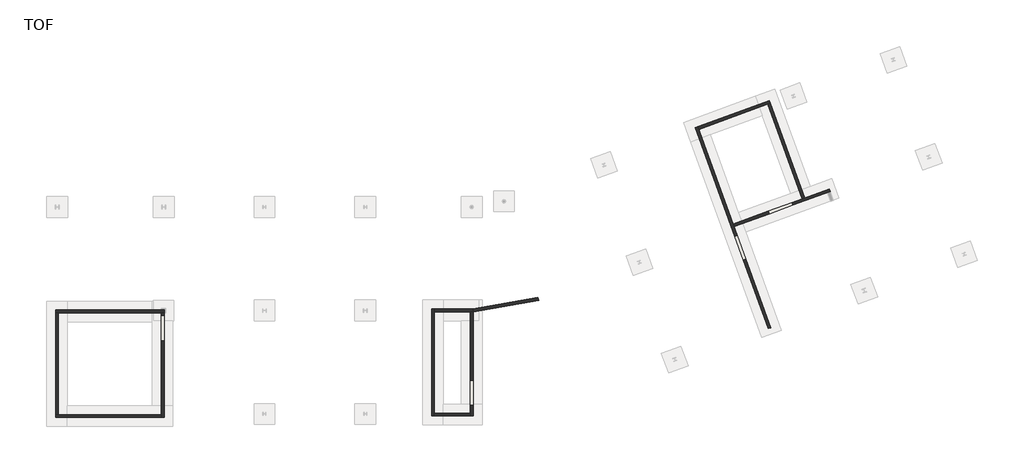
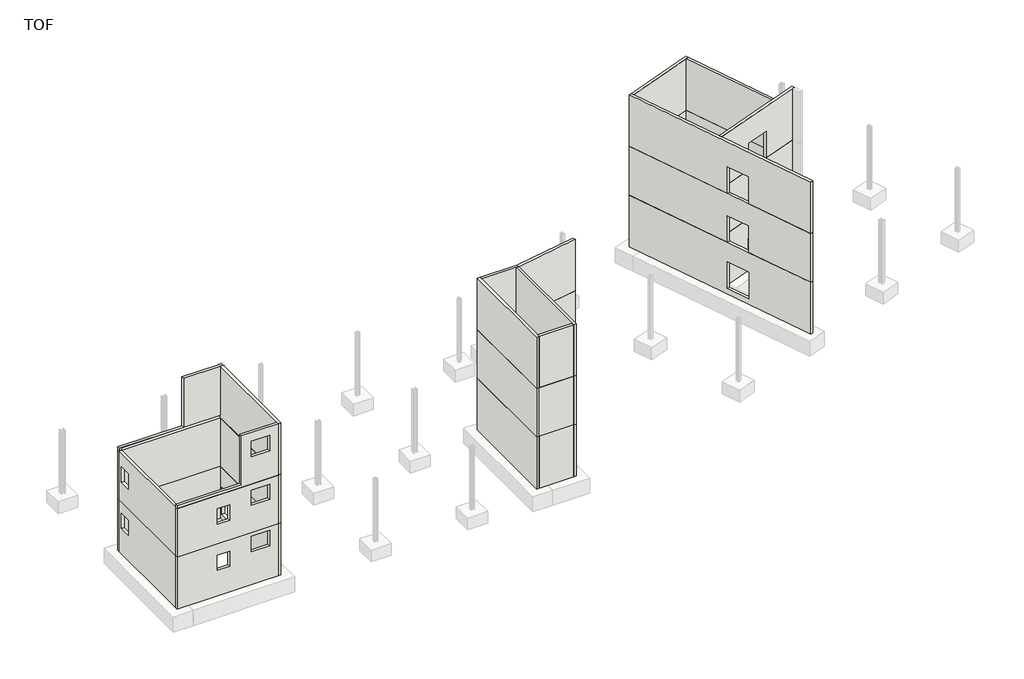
# One storey, part 1 of 2: 13 walls.
"""IFC4 building model written with IfcOpenShell, lengths in millimetres."""

import ifcopenshell
import ifcopenshell.guid

model = None  # the IFC model being written
_history = None  # IfcOwnerHistory: only IFC2X3 demands one
_inside = {}  # id of a spatial element -> (the spatial element, [elements in it])
_under = {}  # id of a project, library or spatial element -> (it, [spatial elements below it])
_declared = {}  # id of a project -> (the project, [libraries it declares])
_typed = {}  # id of a type object -> (the type object, [elements of that type])
_made_of = {}  # id of a material, layer set ... -> (it, [elements and type objects made of it])


def new_model(schema):
    """Start an empty IFC model of exactly this schema.

    Asked for "IFC4X3", IfcOpenShell would pick the latest addendum, in which some entities
    have other attributes; the version numbers below select the first issue.
    IFC2X3 requires an IfcOwnerHistory on every rooted entity: one is made here for all.
    """
    global model, _history
    if schema == "IFC4X3":
        model = ifcopenshell.file(schema_version=(4, 3, 0, 0))
    else:
        model = ifcopenshell.file(schema=schema)
    _inside.clear()
    _under.clear()
    _declared.clear()
    _typed.clear()
    _made_of.clear()
    _history = None
    if model.schema == "IFC2X3":
        org = make("IfcOrganization", Name="unknown")
        user = make(
            "IfcPersonAndOrganization",
            ThePerson=make("IfcPerson", FamilyName="unknown"),
            TheOrganization=org,
        )
        app = make(
            "IfcApplication",
            ApplicationDeveloper=org,
            Version="unknown",
            ApplicationFullName="unknown",
            ApplicationIdentifier="unknown",
        )
        _history = make(
            "IfcOwnerHistory",
            OwningUser=user,
            OwningApplication=app,
            ChangeAction="ADDED",
            CreationDate=0,
        )
    return model


def make(cls, **values):
    """One entity of the class cls with the attributes given. An attribute that is None is left unset."""
    return model.create_entity(
        cls, **{name: value for name, value in values.items() if value is not None}
    )


def rooted(cls, **values):
    """An entity with a GlobalId (a new one), such as an element, a storey or a relation."""
    return make(cls, GlobalId=ifcopenshell.guid.new(), OwnerHistory=_history, **values)


def si_unit(unit_type, name, prefix=None):
    """IfcSIUnit, for example si_unit("LENGTHUNIT", "METRE", prefix="MILLI")."""
    return make("IfcSIUnit", UnitType=unit_type, Prefix=prefix, Name=name)


def assignment(units):
    """IfcUnitAssignment: the units of a project."""
    return None if units is None else make("IfcUnitAssignment", Units=units)


def point(xyz):
    """IfcCartesianPoint."""
    return None if xyz is None else make("IfcCartesianPoint", Coordinates=xyz)


def direction(xyz):
    """IfcDirection."""
    return None if xyz is None else make("IfcDirection", DirectionRatios=xyz)


def frame(location, z_axis=None, x_axis=None):
    """IfcAxis2Placement3D, a coordinate frame: its origin and axes. An axis left out is left unset."""
    return make(
        "IfcAxis2Placement3D",
        Location=point(location),
        Axis=direction(z_axis),
        RefDirection=direction(x_axis),
    )


def origin():
    """The frame at (0, 0, 0) with its axes left unset."""
    return frame((0.0, 0.0, 0.0))


def place(relative_to, where):
    """IfcLocalPlacement: puts the frame where relative to a parent placement (None: the world)."""
    return make(
        "IfcLocalPlacement", PlacementRelTo=relative_to, RelativePlacement=where
    )


def context(
    kind, dimensions, precision=None, world=None, true_north=None, identifier=None
):
    """IfcGeometricRepresentationContext, for example the 3D "Model" context."""
    return make(
        "IfcGeometricRepresentationContext",
        ContextIdentifier=identifier,
        ContextType=kind,
        CoordinateSpaceDimension=dimensions,
        Precision=precision,
        WorldCoordinateSystem=world,
        TrueNorth=true_north,
    )


def project(units=None, contexts=None):
    """IfcProject with its units and contexts."""
    return rooted(
        "IfcProject",
        Name="project",
        RepresentationContexts=contexts,
        UnitsInContext=assignment(units),
    )


def spatial(cls, under=None, at=None, **own):
    """A site, building, storey or space (cls), placed at a placement, below another one or the project."""
    s = rooted(cls, ObjectPlacement=at, **own)
    if under is not None:
        _under.setdefault(under.id(), (under, []))[1].append(s)
    return s


def polyline(points):
    """IfcPolyline through the points."""
    return make("IfcPolyline", Points=[point(p) for p in points])


def outline(outer, holes=None, kind="AREA"):
    """IfcArbitraryClosedProfileDef: a profile drawn as a closed curve; with holes, ...WithVoids."""
    if holes is None:
        return make("IfcArbitraryClosedProfileDef", ProfileType=kind, OuterCurve=outer)
    return make(
        "IfcArbitraryProfileDefWithVoids",
        ProfileType=kind,
        OuterCurve=outer,
        InnerCurves=holes,
    )


def extrude(swept, where, along, depth):
    """IfcExtrudedAreaSolid: the profile swept, set in the frame where, extruded along a direction by depth."""
    return make(
        "IfcExtrudedAreaSolid",
        SweptArea=swept,
        Position=where,
        ExtrudedDirection=direction(along),
        Depth=depth,
    )


def faces_of(points, faces, orient=None, outer=None):
    """IfcFace entities. A face is a list of loops; a loop is a list of indices into points, from 0.

    orient and outer hold one flag for each loop. By default every Orientation is true, the
    first loop of a face is its IfcFaceOuterBound and the others are IfcFaceBound.
    """
    made = []
    for i, loops in enumerate(faces):
        bounds = []
        for j, loop in enumerate(loops):
            is_outer = j == 0 if outer is None else outer[i][j]
            bounds.append(
                make(
                    "IfcFaceOuterBound" if is_outer else "IfcFaceBound",
                    Bound=make("IfcPolyLoop", Polygon=[points[k] for k in loop]),
                    Orientation=True if orient is None else orient[i][j],
                )
            )
        made.append(make("IfcFace", Bounds=bounds))
    return made


def faceted_brep(points, faces, orient=None, outer=None, voids=None):
    """IfcFacetedBrep: a solid bounded by flat faces; with voids (closed shells), ...WithVoids."""
    shared = [point(p) for p in points]
    hull = make("IfcClosedShell", CfsFaces=faces_of(shared, faces, orient, outer))
    if voids is None:
        return make("IfcFacetedBrep", Outer=hull)
    return make(
        "IfcFacetedBrepWithVoids",
        Outer=hull,
        Voids=[
            make(cls, CfsFaces=faces_of(shared, fs, o, b)) for cls, fs, o, b in voids
        ],
    )


def shape(context_of_items, identifier, shape_type, items):
    """IfcShapeRepresentation: the items that make up one representation, for example the "Body"."""
    return make(
        "IfcShapeRepresentation",
        ContextOfItems=context_of_items,
        RepresentationIdentifier=identifier,
        RepresentationType=shape_type,
        Items=items,
    )


def made_of(thing, what):
    """Note that an element or type object is made of a material, layer set ...; save() writes the relation."""
    if what is not None:
        _made_of.setdefault(what.id(), (what, []))[1].append(thing)
    return thing


def element(
    cls,
    number,
    at=None,
    inside=None,
    cuts=None,
    type_object=None,
    material=None,
    context=None,
    identifier="Body",
    shape_type=None,
    held_by="IfcProductDefinitionShape",
    body=None,
    shapes=None,
    **own,
):
    """One element of the class cls, such as IfcWall. Its Tag is "e" and its number.

    at: its placement. inside: the storey or other place that contains it. cuts: it is an
    opening in that element (IfcRelVoidsElement). A single representation is given by context,
    identifier, shape_type and body (its items); several are given by shapes. held_by: the class
    of the entity that holds the representations. save() writes the other relations.
    """
    e = rooted(cls, Tag="e%d" % number, ObjectPlacement=at, **own)
    if body is not None:
        shapes = [shape(context, identifier, shape_type, body)]
    if shapes is not None:
        e.Representation = make(held_by, Representations=shapes)
    if inside is not None:
        _inside.setdefault(inside.id(), (inside, []))[1].append(e)
    if cuts is not None:
        rooted(
            "IfcRelVoidsElement", RelatingBuildingElement=cuts, RelatedOpeningElement=e
        )
    if type_object is not None:
        _typed.setdefault(type_object.id(), (type_object, []))[1].append(e)
    return made_of(e, material)


def aggregate(whole, parts):
    """IfcRelAggregates: a whole, such as a stair, and the parts it consists of."""
    return rooted("IfcRelAggregates", RelatingObject=whole, RelatedObjects=parts)


def save(model, path):
    """Write the relations noted so far, then the file.

    IfcRelAggregates (storeys below a building ...), IfcRelContainedInSpatialStructure (elements
    in a storey), IfcRelDefinesByType, IfcRelAssociatesMaterial and IfcRelDeclares: one each for
    every whole, place, type object, material and project.
    """
    for whole, parts in _under.values():
        aggregate(whole, parts)
    for where, things in _inside.values():
        rooted(
            "IfcRelContainedInSpatialStructure",
            RelatedElements=things,
            RelatingStructure=where,
        )
    for kind, things in _typed.values():
        rooted("IfcRelDefinesByType", RelatedObjects=things, RelatingType=kind)
    for what, things in _made_of.values():
        rooted("IfcRelAssociatesMaterial", RelatedObjects=things, RelatingMaterial=what)
    for by, libraries in _declared.values():
        rooted("IfcRelDeclares", RelatingContext=by, RelatedDefinitions=libraries)
    model.write(path)


model = new_model("IFC4")

# Units and contexts
model_context = context("Model", 3, world=origin())
ifc_project = project(units=[si_unit("LENGTHUNIT", "METRE", prefix="MILLI")], contexts=[model_context])

# Site, building, storey
site = spatial("IfcSite", under=ifc_project)
building = spatial("IfcBuilding", under=site)
storey = spatial("IfcBuildingStorey", under=building, Name="TOF", Elevation=-450.0)

# Walls
placement = place(None, origin())
element("IfcWall", 1, ObjectType="RC WALL 8\"", at=placement, inside=storey, context=model_context, shape_type="SolidModel", body=[
    faceted_brep([(27662.2000028, 7963.2000004, 7595.0), (27662.2000028, 220.0000006, 7595.0), (27462.2000028, 220.0000006, 7595.0), (27462.2000028, 7963.2000004, 7595.0), (27662.2000028, 7963.2000004, 11700.0), (27662.2000028, 7763.2000004, 11700.0), (27662.2000028, 420.0000006, 11700.0), (27662.2000028, 220.0000006, 11700.0), (27462.2000028, 7963.2000004, 11700.0), (27462.2000028, 220.0000006, 11700.0)], [[[0, 1, 2, 3]], [[0, 4, 5, 6, 7, 1]], [[4, 0, 3, 8]], [[5, 4, 8, 9, 7, 6]], [[1, 7, 9, 2]], [[2, 9, 8, 3]]]),
    faceted_brep([(27662.2000028, 220.0000006, 3695.0), (27662.2000028, 7963.2000004, 3695.0), (27462.2000028, 7963.2000004, 3695.0), (27462.2000028, 220.0000006, 3695.0), (27662.2000028, 220.0000006, -450.0), (27662.2000028, 420.0000006, -450.0), (27662.2000028, 7763.2000004, -450.0), (27662.2000028, 7963.2000004, -450.0), (27462.2000028, 220.0000006, -450.0), (27462.2000028, 7963.2000004, -450.0)], [[[0, 1, 2, 3]], [[4, 5, 6, 7, 1, 0]], [[5, 4, 8, 9, 7, 6]], [[1, 7, 9, 2]], [[4, 0, 3, 8]], [[8, 3, 2, 9]]]),
    extrude(outline(polyline([(27662.2000028, 7963.2000004), (27662.2000028, 220.0000006), (27462.2000028, 220.0000006), (27462.2000028, 7963.2000004), (27662.2000028, 7963.2000004)])), frame((0.0, 0.0, 3695.0), z_axis=(0.0, 0.0, 1.0), x_axis=(1.0, 0.0, 0.0)), (0.0, 0.0, 1.0), 3900.0),
])
element("IfcWall", 2, ObjectType="RC WALL 8\"", at=placement, inside=storey, context=model_context, shape_type="SolidModel", body=[
    faceted_brep([(30462.2000027, 7763.2000004, 7595.0), (27662.2000028, 7763.2000004, 7595.0), (27662.2000028, 7963.2000004, 7595.0), (30444.70227, 7963.2000004, 7595.0), (30462.2000027, 7763.2000004, 11700.0), (30262.2000024, 7763.2000004, 11700.0), (27662.2000028, 7763.2000004, 11700.0), (30444.70227, 7963.2000004, 11700.0), (27662.2000028, 7963.2000004, 11700.0)], [[[0, 1, 2, 3]], [[0, 4, 5, 6, 1]], [[4, 0, 3, 7]], [[5, 4, 7, 8, 6]], [[1, 6, 8, 2]], [[2, 8, 7, 3]]]),
    faceted_brep([(27662.2000028, 7763.2000004, 3695.0), (30462.2000027, 7763.2000004, 3695.0), (30444.70227, 7963.2000004, 3695.0), (27662.2000028, 7963.2000004, 3695.0), (27662.2000028, 7763.2000004, -450.0), (30262.2000024, 7763.2000004, -450.0), (30462.2000027, 7763.2000004, -450.0), (27662.2000028, 7963.2000004, -450.0), (30444.70227, 7963.2000004, -450.0)], [[[0, 1, 2, 3]], [[4, 5, 6, 1, 0]], [[5, 4, 7, 8, 6]], [[1, 6, 8, 2]], [[4, 0, 3, 7]], [[7, 3, 2, 8]]]),
    extrude(outline(polyline([(30462.2000027, 7763.2000004), (27662.2000028, 7763.2000004), (27662.2000028, 7963.2000004), (30444.70227, 7963.2000004), (30462.2000027, 7763.2000004)])), frame((0.0, 0.0, 3695.0), z_axis=(0.0, 0.0, 1.0), x_axis=(1.0, 0.0, 0.0)), (0.0, 0.0, 1.0), 3900.0),
])
element("IfcWall", 3, ObjectType="RC WALL 8\"", at=placement, inside=storey, context=model_context, shape_type="SweptSolid", body=[
    extrude(outline(polyline([(35205.0982701, 8599.5009317), (30462.2000027, 7763.2000004), (30444.70227, 7963.2000004), (35153.1367317, 8793.4240329), (35205.0982701, 8599.5009317)])), frame((0.0, 0.0, 7595.0), z_axis=(0.0, 0.0, 1.0), x_axis=(1.0, 0.0, 0.0)), (0.0, 0.0, 1.0), 4105.0),
    extrude(outline(polyline([(35205.0982701, 8599.5009317), (30462.2000027, 7763.2000004), (30444.70227, 7963.2000004), (35153.1367317, 8793.4240329), (35205.0982701, 8599.5009317)])), frame((0.0, 0.0, -450.0), z_axis=(0.0, 0.0, 1.0), x_axis=(1.0, 0.0, 0.0)), (0.0, 0.0, 1.0), 4145.0),
    extrude(outline(polyline([(35205.0982701, 8599.5009317), (30462.2000027, 7763.2000004), (30444.70227, 7963.2000004), (35153.1367317, 8793.4240329), (35205.0982701, 8599.5009317)])), frame((0.0, 0.0, 3695.0), z_axis=(0.0, 0.0, 1.0), x_axis=(1.0, 0.0, 0.0)), (0.0, 0.0, 1.0), 3900.0),
])
element("IfcWall", 4, ObjectType="RC WALL 8\"", at=placement, inside=storey, context=model_context, shape_type="Brep", body=[
    faceted_brep([(30262.2000024, 220.0000006, 7595.0), (30262.2000024, 986.1234345, 7595.0), (30462.2000024, 986.1234345, 7595.0), (30462.2000024, 220.0000006, 7595.0), (30262.2000024, 2814.9234345, 7595.0), (30262.2000024, 7763.2000004, 7595.0), (30462.2000024, 7763.2000004, 7595.0), (30462.2000024, 2814.9234345, 7595.0), (30262.2000024, 2814.9234345, 9728.6), (30262.2000024, 986.1234345, 9728.6), (30262.2000024, 220.0000006, 11700.0), (30262.2000024, 420.0000006, 11700.0), (30262.2000024, 7763.2000004, 11700.0), (30462.2000024, 2814.9234345, 9728.6), (30462.2000024, 986.1234345, 9728.6), (30462.2000024, 220.0000006, 11700.0), (30462.2000024, 7763.2000004, 11700.0)], [[[0, 1, 2, 3]], [[4, 5, 6, 7]], [[8, 9, 1, 0, 10, 11, 12, 5, 4]], [[9, 8, 13, 14]], [[1, 9, 14, 2]], [[8, 4, 7, 13]], [[10, 0, 3, 15]], [[11, 10, 15, 16, 12]], [[5, 12, 16, 6]], [[13, 7, 6, 16, 15, 3, 2, 14]]]),
    faceted_brep([(30262.2000024, 7763.2000004, 3695.0), (30262.2000024, 2814.9234345, 3695.0), (30262.2000024, 986.1234345, 3695.0), (30262.2000024, 220.0000006, 3695.0), (30462.2000024, 220.0000006, 3695.0), (30462.2000024, 986.1234345, 3695.0), (30462.2000024, 2814.9234345, 3695.0), (30462.2000024, 7763.2000004, 3695.0), (30262.2000024, 7763.2000004, -450.0), (30262.2000024, 420.0000006, -450.0), (30262.2000024, 220.0000006, -450.0), (30262.2000024, 2814.9234345, 2133.6), (30262.2000024, 986.1234345, 2133.6), (30262.2000024, 986.1234345, 0.0), (30262.2000024, 2814.9234345, 0.0), (30462.2000024, 2814.9234345, 2133.6), (30462.2000024, 986.1234345, 2133.6), (30462.2000024, 986.1234345, 0.0), (30462.2000024, 2814.9234345, 0.0), (30462.2000024, 7763.2000004, -450.0), (30462.2000024, 220.0000006, -450.0)], [[[0, 1, 2, 3, 4, 5, 6, 7]], [[8, 9, 10, 3, 2, 1, 0], [11, 12, 13, 14]], [[12, 11, 15, 16]], [[13, 12, 16, 17]], [[14, 13, 17, 18]], [[11, 14, 18, 15]], [[9, 8, 19, 20, 10]], [[3, 10, 20, 4]], [[8, 0, 7, 19]], [[19, 7, 6, 5, 4, 20], [15, 18, 17, 16]]]),
    faceted_brep([(30262.2000024, 7763.2000004, 7595.0), (30262.2000024, 2814.9234345, 7595.0), (30262.2000024, 986.1234345, 7595.0), (30262.2000024, 220.0000006, 7595.0), (30462.2000024, 220.0000006, 7595.0), (30462.2000024, 986.1234345, 7595.0), (30462.2000024, 2814.9234345, 7595.0), (30462.2000024, 7763.2000004, 7595.0), (30262.2000024, 220.0000006, 3695.0), (30262.2000024, 986.1234345, 3695.0), (30462.2000024, 986.1234345, 3695.0), (30462.2000024, 220.0000006, 3695.0), (30262.2000024, 2814.9234345, 3695.0), (30262.2000024, 7763.2000004, 3695.0), (30462.2000024, 7763.2000004, 3695.0), (30462.2000024, 2814.9234345, 3695.0), (30262.2000024, 2814.9234345, 5828.6), (30262.2000024, 986.1234345, 5828.6), (30462.2000024, 2814.9234345, 5828.6), (30462.2000024, 986.1234345, 5828.6)], [[[0, 1, 2, 3, 4, 5, 6, 7]], [[8, 9, 10, 11]], [[12, 13, 14, 15]], [[16, 17, 9, 8, 3, 2, 1, 0, 13, 12]], [[13, 0, 7, 14]], [[18, 15, 14, 7, 6, 5, 4, 11, 10, 19]], [[16, 12, 15, 18]], [[17, 16, 18, 19]], [[9, 17, 19, 10]], [[3, 8, 11, 4]]]),
])
element("IfcWall", 5, ObjectType="RC WALL 8\"", at=placement, inside=storey, context=model_context, shape_type="SweptSolid", body=[
    extrude(outline(polyline([(27662.2000028, 420.0000006), (30262.2000024, 420.0000006), (30262.2000024, 220.0000006), (27662.2000028, 220.0000006), (27662.2000028, 420.0000006)])), frame((0.0, 0.0, 7595.0), z_axis=(0.0, 0.0, 1.0), x_axis=(1.0, 0.0, 0.0)), (0.0, 0.0, 1.0), 4105.0),
    extrude(outline(polyline([(27662.2000028, 420.0000006), (30262.2000024, 420.0000006), (30262.2000024, 220.0000006), (27662.2000028, 220.0000006), (27662.2000028, 420.0000006)])), frame((0.0, 0.0, -450.0), z_axis=(0.0, 0.0, 1.0), x_axis=(1.0, 0.0, 0.0)), (0.0, 0.0, 1.0), 4145.0),
    extrude(outline(polyline([(27662.2000028, 420.0000006), (30262.2000024, 420.0000006), (30262.2000024, 220.0000006), (27662.2000028, 220.0000006), (27662.2000028, 420.0000006)])), frame((0.0, 0.0, 3695.0), z_axis=(0.0, 0.0, 1.0), x_axis=(1.0, 0.0, 0.0)), (0.0, 0.0, 1.0), 3900.0),
])
element("IfcWall", 6, ObjectType="RC WALL 8\"", at=placement, inside=storey, context=model_context, shape_type="Brep", body=[
    faceted_brep([(408.0000012, 7688.2000003, 7595.0), (233.0000012, 7688.2000003, 7595.0), (233.0000013, 7888.2000003, 7595.0), (408.0000013, 7888.2000003, 7595.0), (408.0000012, 7688.2000003, 7795.0), (8087.2000024, 7688.2000005, 7795.0), (8087.2000024, 7688.2000005, 11700.0), (7887.2000024, 7688.2000005, 11700.0), (5097.2000022, 7688.2000004, 11700.0), (5097.2000022, 7688.2000004, 7800.0), (233.0000012, 7688.2000003, 7800.0), (408.0000013, 7888.2000003, 7795.0), (7887.2000024, 7888.2000005, 7795.0), (8087.2000024, 7888.2000005, 7795.0), (8087.2000024, 7888.2000005, 11700.0), (7887.2000024, 7888.2000005, 11700.0), (5097.2000022, 7888.2000004, 11700.0), (5097.2000022, 7888.2000004, 7800.0), (233.0000013, 7888.2000003, 7800.0)], [[[0, 1, 2, 3]], [[0, 4, 5, 6, 7, 8, 9, 10, 1]], [[4, 0, 3, 11]], [[5, 4, 11, 12, 13]], [[6, 5, 13, 14]], [[7, 6, 14, 15, 16, 8]], [[9, 8, 16, 17]], [[10, 9, 17, 18]], [[1, 10, 18, 2]], [[2, 18, 17, 16, 15, 14, 13, 12, 11, 3]]]),
    faceted_brep([(233.0000012, 7688.2000003, 3695.0), (8087.2000024, 7688.2000005, 3695.0), (8087.2000024, 7888.2000005, 3695.0), (233.0000013, 7888.2000003, 3695.0), (233.0000012, 7688.2000003, -450.0), (433.0000012, 7688.2000003, -450.0), (7887.2000024, 7688.2000005, -450.0), (8087.2000024, 7688.2000005, -450.0), (233.0000013, 7888.2000003, -450.0), (7887.2000024, 7888.2000005, -450.0), (8087.2000024, 7888.2000005, -450.0)], [[[0, 1, 2, 3]], [[4, 5, 6, 7, 1, 0]], [[5, 4, 8, 9, 10, 7, 6]], [[1, 7, 10, 2]], [[4, 0, 3, 8]], [[10, 9, 8, 3, 2]]]),
    faceted_brep([(233.0000012, 7688.2000003, 7595.0), (408.0000012, 7688.2000003, 7595.0), (433.0000012, 7688.2000003, 7595.0), (8087.2000024, 7688.2000005, 7595.0), (8087.2000024, 7888.2000005, 7595.0), (7887.2000024, 7888.2000005, 7595.0), (408.0000013, 7888.2000003, 7595.0), (233.0000013, 7888.2000003, 7595.0), (8087.2000024, 7688.2000005, 3695.0), (233.0000012, 7688.2000003, 3695.0), (233.0000013, 7888.2000003, 3695.0), (8087.2000024, 7888.2000005, 3695.0)], [[[0, 1, 2, 3, 4, 5, 6, 7]], [[8, 9, 10, 11]], [[8, 3, 2, 1, 0, 9]], [[9, 0, 7, 10]], [[10, 7, 6, 5, 4, 11]], [[3, 8, 11, 4]]]),
])
element("IfcWall", 7, ObjectType="RC WALL 8\"", at=placement, inside=storey, context=model_context, shape_type="SolidModel", body=[
    faceted_brep([(7887.2000024, 113.0000007, 7595.0), (7887.2000024, 7688.2000005, 7595.0), (8087.2000024, 7688.2000005, 7595.0), (8087.2000024, 113.0000007, 7595.0), (7887.2000024, 113.0000007, 11700.0), (7887.2000024, 313.0000007, 11700.0), (7887.2000024, 7688.2000005, 11700.0), (8087.2000024, 113.0000007, 11700.0), (8087.2000024, 7688.2000005, 11700.0), (8087.2000024, 7688.2000005, 7795.0)], [[[0, 1, 2, 3]], [[0, 4, 5, 6, 1]], [[4, 0, 3, 7]], [[5, 4, 7, 8, 6]], [[1, 6, 8, 9, 2]], [[2, 9, 8, 7, 3]]]),
    faceted_brep([(7887.2000024, 7688.2000005, 3695.0), (7887.2000024, 113.0000007, 3695.0), (8087.2000024, 113.0000007, 3695.0), (8087.2000024, 7688.2000005, 3695.0), (7887.2000024, 7688.2000005, -450.0), (7887.2000024, 313.0000007, -450.0), (7887.2000024, 113.0000007, -450.0), (7887.2000024, 5668.8000005, 2133.6), (7887.2000024, 5668.8000005, 0.0), (7887.2000024, 7497.6000005, 0.0), (7887.2000024, 7497.6000005, 2133.6), (8087.2000024, 5668.8000005, 2133.6), (8087.2000024, 5668.8000005, 0.0), (8087.2000024, 7497.6000005, 0.0), (8087.2000024, 7497.6000005, 2133.6), (8087.2000024, 7688.2000005, -450.0), (8087.2000024, 113.0000007, -450.0)], [[[0, 1, 2, 3]], [[4, 5, 6, 1, 0], [7, 8, 9, 10]], [[8, 7, 11, 12]], [[9, 8, 12, 13]], [[10, 9, 13, 14]], [[7, 10, 14, 11]], [[5, 4, 15, 16, 6]], [[1, 6, 16, 2]], [[4, 0, 3, 15]], [[15, 3, 2, 16], [11, 14, 13, 12]]]),
    extrude(outline(polyline([(7887.2000024, 113.0000007), (7887.2000024, 7688.2000005), (8087.2000024, 7688.2000005), (8087.2000024, 113.0000007), (7887.2000024, 113.0000007)])), frame((0.0, 0.0, 3695.0), z_axis=(0.0, 0.0, 1.0), x_axis=(1.0, 0.0, 0.0)), (0.0, 0.0, 1.0), 3900.0),
])
element("IfcWall", 8, ObjectType="RC WALL 8\"", at=placement, inside=storey, context=model_context, shape_type="SolidModel", body=[
    extrude(outline(polyline([(7595.0, 7887.2000024), (11700.0, 7887.2000024), (11700.0, 5097.2000022), (7800.0, 5097.2000022), (7800.0, 233.0), (7595.0, 233.0), (7595.0, 7887.2000024)]), holes=[polyline([(11004.2, 5848.0166692), (11004.2, 7219.6166692), (9785.0, 7219.6166692), (9785.0, 5848.0166692), (11004.2, 5848.0166692)])]), frame((0.0, 113.0000007, 0.0), z_axis=(0.0, 1.0, 0.0), x_axis=(0.0, 0.0, 1.0)), (0.0, 0.0, 1.0), 200.0),
    faceted_brep([(7887.2000024, 313.0000007, 3695.0), (233.0000001, 313.0000007, 3695.0), (233.0, 113.0000007, 3695.0), (7887.2000024, 113.0000007, 3695.0), (7887.2000024, 313.0000007, -450.0), (433.0000001, 313.0000007, -450.0), (233.0000001, 313.0000007, -450.0), (4199.4000022, 313.0000007, 2809.2), (3285.0000022, 313.0000007, 2809.2), (3285.0000022, 313.0000007, 1590.0), (4199.4000022, 313.0000007, 1590.0), (7219.6166692, 313.0000007, 3409.2), (5848.0166692, 313.0000007, 3409.2), (5848.0166692, 313.0000007, 2190.0), (7219.6166692, 313.0000007, 2190.0), (7887.2000024, 113.0000007, -450.0), (233.0, 113.0000007, -450.0), (4199.4000022, 113.0000007, 2809.2), (3285.0000022, 113.0000007, 2809.2), (3285.0000022, 113.0000007, 1590.0), (4199.4000022, 113.0000007, 1590.0), (7219.6166692, 113.0000007, 3409.2), (5848.0166692, 113.0000007, 3409.2), (5848.0166692, 113.0000007, 2190.0), (7219.6166692, 113.0000007, 2190.0)], [[[0, 1, 2, 3]], [[4, 5, 6, 1, 0], [7, 8, 9, 10], [11, 12, 13, 14]], [[5, 4, 15, 16, 6]], [[1, 6, 16, 2]], [[4, 0, 3, 15]], [[8, 7, 17, 18]], [[9, 8, 18, 19]], [[10, 9, 19, 20]], [[7, 10, 20, 17]], [[12, 11, 21, 22]], [[13, 12, 22, 23]], [[14, 13, 23, 24]], [[11, 14, 24, 21]], [[15, 3, 2, 16], [17, 20, 19, 18], [21, 24, 23, 22]]]),
    extrude(outline(polyline([(3695.0, 7887.2000024), (7595.0, 7887.2000024), (7595.0, 233.0), (3695.0, 233.0), (3695.0, 7887.2000024)]), holes=[polyline([(7104.2, 7219.6166692), (5885.0, 7219.6166692), (5885.0, 5848.0166692), (7104.2, 5848.0166692), (7104.2, 7219.6166692)]), polyline([(6504.2, 4199.4000022), (5285.0, 4199.4000022), (5285.0, 3285.0000022), (6504.2, 3285.0000022), (6504.2, 4199.4000022)])]), frame((0.0, 113.0000007, 0.0), z_axis=(0.0, 1.0, 0.0), x_axis=(0.0, 0.0, 1.0)), (0.0, 0.0, 1.0), 200.0),
])
element("IfcWall", 9, ObjectType="RC WALL 8\"", at=placement, inside=storey, context=model_context, shape_type="SolidModel", body=[
    faceted_brep([(433.0000001, 313.0000007, 7595.0), (433.0000012, 7688.2000003, 7595.0), (408.0000012, 7688.2000003, 7595.0), (233.0000012, 7688.2000003, 7595.0), (233.0000001, 313.0000007, 7595.0), (433.0000012, 7688.2000003, 3695.0), (433.0000001, 313.0000007, 3695.0), (233.0000001, 313.0000007, 3695.0), (233.0000012, 7688.2000003, 3695.0), (433.000001, 6476.0000003, 6504.2), (433.0000012, 7390.4000003, 6504.2), (433.0000012, 7390.4000003, 5285.0), (433.000001, 6476.0000003, 5285.0), (233.000001, 6476.0000003, 6504.2), (233.000001, 6476.0000003, 5285.0), (233.0000012, 7390.4000003, 5285.0), (233.0000012, 7390.4000003, 6504.2)], [[[0, 1, 2, 3, 4]], [[5, 6, 7, 8]], [[5, 1, 0, 6], [9, 10, 11, 12]], [[6, 0, 4, 7]], [[7, 4, 3, 8], [13, 14, 15, 16]], [[1, 5, 8, 3, 2]], [[10, 9, 13, 16]], [[11, 10, 16, 15]], [[12, 11, 15, 14]], [[9, 12, 14, 13]]]),
    extrude(outline(polyline([(-1274.7140232, 0.0), (-1274.7140232, -4145.0), (-8649.9140228, -4145.0), (-8649.9140228, 0.0), (-1274.7140232, 0.0)]), holes=[polyline([(-7437.7140228, -3259.2), (-7437.7140228, -2040.0), (-8352.1140228, -2040.0), (-8352.1140228, -3259.2), (-7437.7140228, -3259.2)])]), frame((232.9999998, -961.7140225, -450.0), z_axis=(1.0, -1.600288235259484e-10, 0.0), x_axis=(-1.600288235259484e-10, -1.0, 0.0)), (0.0, 0.0, 1.0), 200.0),
])
element("IfcWall", 10, ObjectType="RC WALL 8\"", at=placement, inside=storey, context=model_context, shape_type="Brep", body=[
    faceted_brep([(50211.2306799, 11593.0325344, 7595.0), (52022.5009548, 6616.6083532, 7595.0), (51834.5624306, 6548.2043246, 7595.0), (50023.2921558, 11524.6285057, 7595.0), (46724.472127, 21172.8229263, 7595.0), (49585.7442418, 13311.5423993, 7595.0), (49397.8057177, 13243.1383707, 7595.0), (46536.5336029, 21104.4188977, 7595.0), (49585.7442418, 13311.5423993, 9728.6), (46724.472127, 21172.8229263, 11700.0), (46792.8761557, 20984.8844022, 11700.0), (49288.8365555, 14127.2895633, 11700.0), (49357.2405842, 13939.3510391, 11700.0), (52022.5009548, 6616.6083532, 11700.0), (50211.2306799, 11593.0325344, 9728.6), (49397.8057177, 13243.1383707, 9728.6), (50023.2921558, 11524.6285057, 9728.6), (46536.5336029, 21104.4188977, 11700.0), (51834.5624306, 6548.2043246, 11700.0)], [[[0, 1, 2, 3]], [[4, 5, 6, 7]], [[8, 5, 4, 9, 10, 11, 12, 13, 1, 0, 14]], [[5, 8, 15, 6]], [[14, 0, 3, 16]], [[8, 14, 16, 15]], [[9, 4, 7, 17]], [[10, 9, 17, 18, 13, 12, 11]], [[1, 13, 18, 2]], [[15, 16, 3, 2, 18, 17, 7, 6]]]),
    faceted_brep([(52022.5009548, 6616.6083532, 3695.0), (50211.2306799, 11593.0325344, 3695.0), (49585.7442418, 13311.5423993, 3695.0), (46724.472127, 21172.8229263, 3695.0), (46536.5336029, 21104.4188977, 3695.0), (49397.8057177, 13243.1383707, 3695.0), (50023.2921558, 11524.6285057, 3695.0), (51834.5624306, 6548.2043246, 3695.0), (52022.5009548, 6616.6083532, -450.0), (49357.2405842, 13939.3510391, -450.0), (49288.8365555, 14127.2895633, -450.0), (46792.8761557, 20984.8844022, -450.0), (46724.472127, 21172.8229263, -450.0), (49585.7442418, 13311.5423993, 2133.6), (49585.7442418, 13311.5423993, 0.0), (50211.2306799, 11593.0325344, 0.0), (50211.2306799, 11593.0325344, 2133.6), (49397.8057177, 13243.1383707, 2133.6), (49397.8057177, 13243.1383707, 0.0), (50023.2921558, 11524.6285057, 0.0), (50023.2921558, 11524.6285057, 2133.6), (51834.5624306, 6548.2043246, -450.0), (46536.5336029, 21104.4188977, -450.0)], [[[0, 1, 2, 3, 4, 5, 6, 7]], [[8, 9, 10, 11, 12, 3, 2, 1, 0], [13, 14, 15, 16]], [[14, 13, 17, 18]], [[15, 14, 18, 19]], [[16, 15, 19, 20]], [[13, 16, 20, 17]], [[9, 8, 21, 22, 12, 11, 10]], [[3, 12, 22, 4]], [[8, 0, 7, 21]], [[21, 7, 6, 5, 4, 22], [17, 20, 19, 18]]]),
    faceted_brep([(52022.5009548, 6616.6083532, 7595.0), (50211.2306799, 11593.0325344, 7595.0), (49585.7442418, 13311.5423993, 7595.0), (46724.472127, 21172.8229263, 7595.0), (46536.5336029, 21104.4188977, 7595.0), (49397.8057177, 13243.1383707, 7595.0), (50023.2921558, 11524.6285057, 7595.0), (51834.5624306, 6548.2043246, 7595.0), (50211.2306799, 11593.0325344, 3695.0), (52022.5009548, 6616.6083532, 3695.0), (51834.5624306, 6548.2043246, 3695.0), (50023.2921558, 11524.6285057, 3695.0), (46724.472127, 21172.8229263, 3695.0), (49585.7442418, 13311.5423993, 3695.0), (49397.8057177, 13243.1383707, 3695.0), (46536.5336029, 21104.4188977, 3695.0), (49585.7442418, 13311.5423993, 5828.6), (50211.2306799, 11593.0325344, 5828.6), (49397.8057177, 13243.1383707, 5828.6), (50023.2921558, 11524.6285057, 5828.6)], [[[0, 1, 2, 3, 4, 5, 6, 7]], [[8, 9, 10, 11]], [[12, 13, 14, 15]], [[16, 13, 12, 3, 2, 1, 0, 9, 8, 17]], [[13, 16, 18, 14]], [[18, 19, 11, 10, 7, 6, 5, 4, 15, 14]], [[3, 12, 15, 4]], [[9, 0, 7, 10]], [[17, 8, 11, 19]], [[16, 17, 19, 18]]]),
])
element("IfcWall", 11, ObjectType="RC WALL 8\"", at=placement, inside=storey, context=model_context, shape_type="SolidModel", body=[
    faceted_brep([(51993.4637116, 22877.743473, 7595.0), (46792.8761557, 20984.8844022, 7595.0), (46724.472127, 21172.8229263, 7595.0), (51925.0596829, 23065.6819972, 7595.0), (51993.4637116, 22877.743473, 11700.0), (51805.5251874, 22809.3394444, 11700.0), (46792.8761557, 20984.8844022, 11700.0), (51925.0596829, 23065.6819972, 11700.0), (46724.472127, 21172.8229263, 11700.0)], [[[0, 1, 2, 3]], [[0, 4, 5, 6, 1]], [[4, 0, 3, 7]], [[5, 4, 7, 8, 6]], [[1, 6, 8, 2]], [[2, 8, 7, 3]]]),
    faceted_brep([(46792.8761557, 20984.8844022, 3695.0), (51993.4637116, 22877.743473, 3695.0), (51925.0596829, 23065.6819972, 3695.0), (46724.472127, 21172.8229263, 3695.0), (46792.8761557, 20984.8844022, -450.0), (51805.5251874, 22809.3394444, -450.0), (51993.4637116, 22877.743473, -450.0), (46724.472127, 21172.8229263, -450.0), (51925.0596829, 23065.6819972, -450.0)], [[[0, 1, 2, 3]], [[4, 5, 6, 1, 0]], [[5, 4, 7, 8, 6]], [[1, 6, 8, 2]], [[4, 0, 3, 7]], [[7, 3, 2, 8]]]),
    extrude(outline(polyline([(51993.4637116, 22877.743473), (46792.8761557, 20984.8844022), (46724.472127, 21172.8229263), (51925.0596829, 23065.6819972), (51993.4637116, 22877.743473)])), frame((0.0, 0.0, 3695.0), z_axis=(0.0, 0.0, 1.0), x_axis=(1.0, 0.0, 0.0)), (0.0, 0.0, 1.0), 3900.0),
])
element("IfcWall", 12, ObjectType="RC WALL 8\"", at=placement, inside=storey, context=model_context, shape_type="SweptSolid", body=[
    extrude(outline(polyline([(54301.4855873, 15951.7446055), (51805.5251874, 22809.3394444), (51993.4637116, 22877.743473), (54489.4241114, 16020.1486342), (54301.4855873, 15951.7446055)])), frame((0.0, 0.0, 7595.0), z_axis=(0.0, 0.0, 1.0), x_axis=(1.0, 0.0, 0.0)), (0.0, 0.0, 1.0), 4105.0),
    extrude(outline(polyline([(54301.4855873, 15951.7446055), (51805.5251874, 22809.3394444), (51993.4637116, 22877.743473), (54489.4241114, 16020.1486342), (54301.4855873, 15951.7446055)])), frame((0.0, 0.0, -450.0), z_axis=(0.0, 0.0, 1.0), x_axis=(1.0, 0.0, 0.0)), (0.0, 0.0, 1.0), 4145.0),
    extrude(outline(polyline([(54301.4855873, 15951.7446055), (51805.5251874, 22809.3394444), (51993.4637116, 22877.743473), (54489.4241114, 16020.1486342), (54301.4855873, 15951.7446055)])), frame((0.0, 0.0, 3695.0), z_axis=(0.0, 0.0, 1.0), x_axis=(1.0, 0.0, 0.0)), (0.0, 0.0, 1.0), 3900.0),
])
element("IfcWall", 13, ObjectType="RC WALL 8\"", at=placement, inside=storey, context=model_context, shape_type="Brep", body=[
    faceted_brep([(53558.5646012, 15681.3434802, 7595.0), (56242.5619494, 16658.2386237, 7595.0), (56310.965978, 16470.3000996, 7595.0), (53626.9686299, 15493.4049561, 7595.0), (49288.8365555, 14127.2895633, 7595.0), (51840.0547363, 15055.8570422, 7595.0), (51908.458765, 14867.918518, 7595.0), (49357.2405842, 13939.3510391, 7595.0), (53558.5646012, 15681.3434802, 9728.6), (51840.0547363, 15055.8570422, 9728.6), (49288.8365555, 14127.2895633, 11700.0), (54301.4855873, 15951.7446055, 11700.0), (54489.4241114, 16020.1486342, 11700.0), (56242.5619494, 16658.2386237, 11700.0), (53626.9686299, 15493.4049561, 9728.6), (51908.458765, 14867.918518, 9728.6), (49357.2405842, 13939.3510391, 11700.0), (56123.0274539, 16401.8960709, 11700.0), (56310.965978, 16470.3000996, 11700.0)], [[[0, 1, 2, 3]], [[4, 5, 6, 7]], [[8, 9, 5, 4, 10, 11, 12, 13, 1, 0]], [[9, 8, 14, 15]], [[5, 9, 15, 6]], [[8, 0, 3, 14]], [[10, 4, 7, 16]], [[11, 10, 16, 17, 18, 13, 12]], [[1, 13, 18, 2]], [[14, 3, 2, 18, 17, 16, 7, 6, 15]]]),
    faceted_brep([(56242.5619494, 16658.2386237, 3695.0), (53558.5646012, 15681.3434802, 3695.0), (51840.0547363, 15055.8570422, 3695.0), (49288.8365555, 14127.2895633, 3695.0), (49357.2405842, 13939.3510391, 3695.0), (51908.458765, 14867.918518, 3695.0), (53626.9686299, 15493.4049561, 3695.0), (56310.965978, 16470.3000996, 3695.0), (56242.5619494, 16658.2386237, -450.0), (54489.4241114, 16020.1486342, -450.0), (54301.4855873, 15951.7446055, -450.0), (49288.8365555, 14127.2895633, -450.0), (53558.5646012, 15681.3434802, 2133.6), (51840.0547363, 15055.8570422, 2133.6), (51840.0547363, 15055.8570422, 0.0), (53558.5646012, 15681.3434802, 0.0), (56310.965978, 16470.3000996, -450.0), (56123.0274539, 16401.8960709, -450.0), (49357.2405842, 13939.3510391, -450.0), (53626.9686299, 15493.4049561, 2133.6), (51908.458765, 14867.918518, 2133.6), (51908.458765, 14867.918518, 0.0), (53626.9686299, 15493.4049561, 0.0)], [[[0, 1, 2, 3, 4, 5, 6, 7]], [[8, 9, 10, 11, 3, 2, 1, 0], [12, 13, 14, 15]], [[9, 8, 16, 17, 18, 11, 10]], [[3, 11, 18, 4]], [[8, 0, 7, 16]], [[13, 12, 19, 20]], [[14, 13, 20, 21]], [[15, 14, 21, 22]], [[12, 15, 22, 19]], [[16, 7, 6, 5, 4, 18, 17], [19, 22, 21, 20]]]),
    faceted_brep([(56242.5619494, 16658.2386237, 7595.0), (53558.5646012, 15681.3434802, 7595.0), (51840.0547363, 15055.8570422, 7595.0), (49288.8365555, 14127.2895633, 7595.0), (49357.2405842, 13939.3510391, 7595.0), (51908.458765, 14867.918518, 7595.0), (53626.9686299, 15493.4049561, 7595.0), (56310.965978, 16470.3000996, 7595.0), (53558.5646012, 15681.3434802, 3695.0), (56242.5619494, 16658.2386237, 3695.0), (56310.965978, 16470.3000996, 3695.0), (53626.9686299, 15493.4049561, 3695.0), (49288.8365555, 14127.2895633, 3695.0), (51840.0547363, 15055.8570422, 3695.0), (51908.458765, 14867.918518, 3695.0), (49357.2405842, 13939.3510391, 3695.0), (53558.5646012, 15681.3434802, 5828.6), (51840.0547363, 15055.8570422, 5828.6), (51908.458765, 14867.918518, 5828.6), (53626.9686299, 15493.4049561, 5828.6)], [[[0, 1, 2, 3, 4, 5, 6, 7]], [[8, 9, 10, 11]], [[12, 13, 14, 15]], [[16, 17, 13, 12, 3, 2, 1, 0, 9, 8]], [[13, 17, 18, 14]], [[19, 11, 10, 7, 6, 5, 4, 15, 14, 18]], [[3, 12, 15, 4]], [[17, 16, 19, 18]], [[9, 0, 7, 10]], [[16, 8, 11, 19]]]),
])

save(model, "model.ifc")
